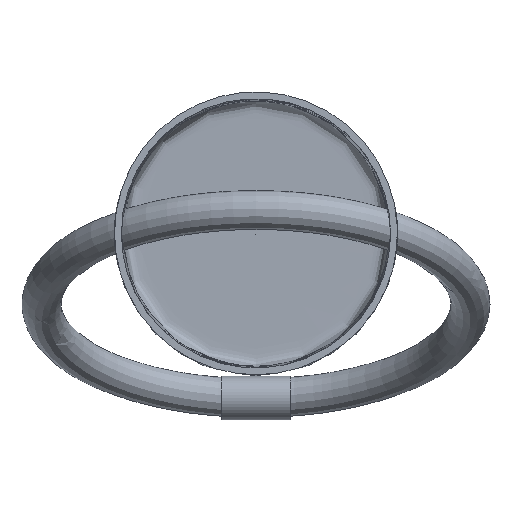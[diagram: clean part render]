
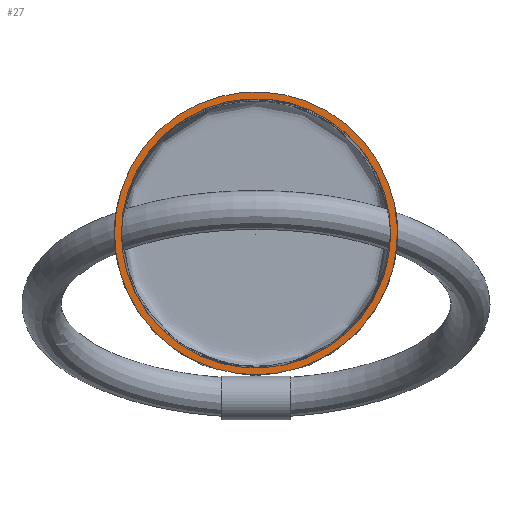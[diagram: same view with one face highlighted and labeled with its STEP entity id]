
A CAD part, top view. The second image highlights one B-rep face of the part: STEP entity #27.
In plain terms, the highlighted free-form (B-spline) face has degree [2, 1] with [9, 2] control points.
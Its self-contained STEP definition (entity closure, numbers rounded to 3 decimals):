
#27=ADVANCED_FACE('',(#37),#168,.T.);
#37=FACE_OUTER_BOUND('',#47,.T.);
#47=EDGE_LOOP('',(#64,#65,#66,#67));
#64=ORIENTED_EDGE('',*,*,#107,.F.);
#65=ORIENTED_EDGE('',*,*,#108,.T.);
#66=ORIENTED_EDGE('',*,*,#107,.T.);
#67=ORIENTED_EDGE('',*,*,#109,.F.);
#107=EDGE_CURVE('',#155,#154,#129,.T.);
#108=EDGE_CURVE('',#155,#155,#134,.T.);
#109=EDGE_CURVE('',#154,#154,#135,.T.);
#129=B_SPLINE_CURVE_WITH_KNOTS('',1,(#2525,#2526),.UNSPECIFIED.,.F.,.F.,
(2,2),(578.715,585.715),.UNSPECIFIED.);
#134=(
BOUNDED_CURVE()
B_SPLINE_CURVE(2,(#2527,#2528,#2529,#2530,#2531,#2532,#2533,#2534,#2535),
 .UNSPECIFIED.,.T.,.F.)
B_SPLINE_CURVE_WITH_KNOTS((3,2,2,2,3),(0.,227.685,455.37,
683.055,910.74),.UNSPECIFIED.)
CURVE()
GEOMETRIC_REPRESENTATION_ITEM()
RATIONAL_B_SPLINE_CURVE((1.,0.707,1.,0.707,1.,0.707,
1.,0.707,1.))
REPRESENTATION_ITEM('')
);
#135=(
BOUNDED_CURVE()
B_SPLINE_CURVE(2,(#2536,#2537,#2538,#2539,#2540,#2541,#2542,#2543,#2544),
 .UNSPECIFIED.,.T.,.F.)
B_SPLINE_CURVE_WITH_KNOTS((3,2,2,2,3),(0.,227.685,455.37,
683.055,910.74),.UNSPECIFIED.)
CURVE()
GEOMETRIC_REPRESENTATION_ITEM()
RATIONAL_B_SPLINE_CURVE((1.,0.707,1.,0.707,1.,0.707,
1.,0.707,1.))
REPRESENTATION_ITEM('')
);
#154=VERTEX_POINT('',#2504);
#155=VERTEX_POINT('',#2505);
#168=(
BOUNDED_SURFACE()
B_SPLINE_SURFACE(2,1,((#1159,#1160),(#1161,#1162),(#1163,#1164),(#1165,
#1166),(#1167,#1168),(#1169,#1170),(#1171,#1172),(#1173,#1174),(#1175,#1176)),
 .UNSPECIFIED.,.T.,.F.,.F.)
B_SPLINE_SURFACE_WITH_KNOTS((3,2,2,2,3),(2,2),(0.,227.685,455.37,
683.055,910.74),(578.715,585.715),
 .UNSPECIFIED.)
GEOMETRIC_REPRESENTATION_ITEM()
RATIONAL_B_SPLINE_SURFACE(((1.,1.),(0.707,0.707),
(1.,1.),(0.707,0.707),(1.,1.),(0.707,
0.707),(1.,1.),(0.707,0.707),(1.,1.)))
REPRESENTATION_ITEM('')
SURFACE()
);
#1159=CARTESIAN_POINT('',(-138.,0.,500.));
#1160=CARTESIAN_POINT('',(-145.,0.,500.));
#1161=CARTESIAN_POINT('',(-138.,138.,500.));
#1162=CARTESIAN_POINT('',(-145.,145.,500.));
#1163=CARTESIAN_POINT('',(0.,138.,500.));
#1164=CARTESIAN_POINT('',(0.,145.,500.));
#1165=CARTESIAN_POINT('',(138.,138.,500.));
#1166=CARTESIAN_POINT('',(145.,145.,500.));
#1167=CARTESIAN_POINT('',(138.,0.,500.));
#1168=CARTESIAN_POINT('',(145.,0.,500.));
#1169=CARTESIAN_POINT('',(138.,-138.,500.));
#1170=CARTESIAN_POINT('',(145.,-145.,500.));
#1171=CARTESIAN_POINT('',(0.,-138.,500.));
#1172=CARTESIAN_POINT('',(0.,-145.,500.));
#1173=CARTESIAN_POINT('',(-138.,-138.,500.));
#1174=CARTESIAN_POINT('',(-145.,-145.,500.));
#1175=CARTESIAN_POINT('',(-138.,0.,500.));
#1176=CARTESIAN_POINT('',(-145.,0.,500.));
#2504=CARTESIAN_POINT('',(-145.,0.,500.));
#2505=CARTESIAN_POINT('',(-138.,0.,500.));
#2525=CARTESIAN_POINT('',(-138.,0.,500.));
#2526=CARTESIAN_POINT('',(-145.,0.,500.));
#2527=CARTESIAN_POINT('',(-138.,0.,500.));
#2528=CARTESIAN_POINT('',(-138.,138.,500.));
#2529=CARTESIAN_POINT('',(0.,138.,500.));
#2530=CARTESIAN_POINT('',(138.,138.,500.));
#2531=CARTESIAN_POINT('',(138.,0.,500.));
#2532=CARTESIAN_POINT('',(138.,-138.,500.));
#2533=CARTESIAN_POINT('',(0.,-138.,500.));
#2534=CARTESIAN_POINT('',(-138.,-138.,500.));
#2535=CARTESIAN_POINT('',(-138.,0.,500.));
#2536=CARTESIAN_POINT('',(-145.,0.,500.));
#2537=CARTESIAN_POINT('',(-145.,145.,500.));
#2538=CARTESIAN_POINT('',(0.,145.,500.));
#2539=CARTESIAN_POINT('',(145.,145.,500.));
#2540=CARTESIAN_POINT('',(145.,0.,500.));
#2541=CARTESIAN_POINT('',(145.,-145.,500.));
#2542=CARTESIAN_POINT('',(0.,-145.,500.));
#2543=CARTESIAN_POINT('',(-145.,-145.,500.));
#2544=CARTESIAN_POINT('',(-145.,0.,500.));
